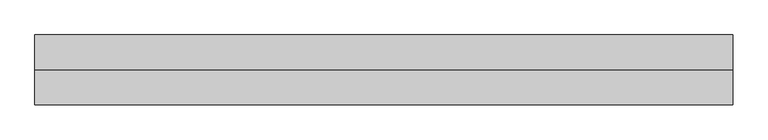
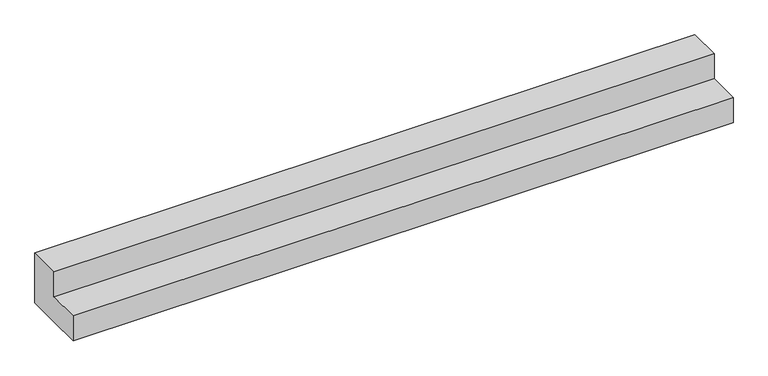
"""IFC4 building model written with IfcOpenShell, lengths in millimetres: railing geometry, Bordstein."""

from ifc_helpers import new_model, si_unit, frame, origin, place, context, project, spatial, polyline, outline, extrude, source, transform, mapped, element, save


def railing_8d147197(model_context):
    return source(origin(), model_context, "Body", "SweptSolid", [
        extrude(outline(polyline([(-78109.697095, -160.0), (-78209.697095, -160.0), (-78209.697095, -80.0), (-78109.697095, -80.0), (-78109.697095, 0.0), (-78009.697095, 0.0), (-78009.697095, -160.0), (-78109.697095, -160.0)])), frame((46903.5622945, 0.0, 0.0), z_axis=(1.0, 0.0, 0.0), x_axis=(0.0, 1.0, 0.0)), (0.0, 0.0, 1.0), 2000.0),
    ])


if __name__ == "__main__":
    model = new_model("IFC4")
    model_context = context("Model", 3, world=origin())
    ifc_project = project(units=[si_unit("LENGTHUNIT", "METRE", prefix="MILLI")], contexts=[model_context])
    site = spatial("IfcSite", under=ifc_project)
    building = spatial("IfcBuilding", under=site)
    placement = place(None, origin())
    railing_shape = railing_8d147197(model_context)
    element("IfcRailing", 1, ObjectType="Bordstein", at=placement, inside=building, context=model_context, shape_type="MappedRepresentation", body=[
        mapped(railing_shape, transform((0.0, 0.0, 0.0), x_axis=(1.0, 0.0, 0.0), y_axis=(0.0, 1.0, 0.0), z_axis=(0.0, 0.0, 1.0))),
    ])
    save(model, "model.ifc")
